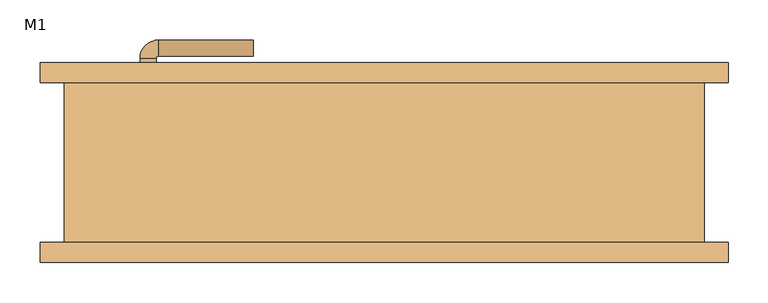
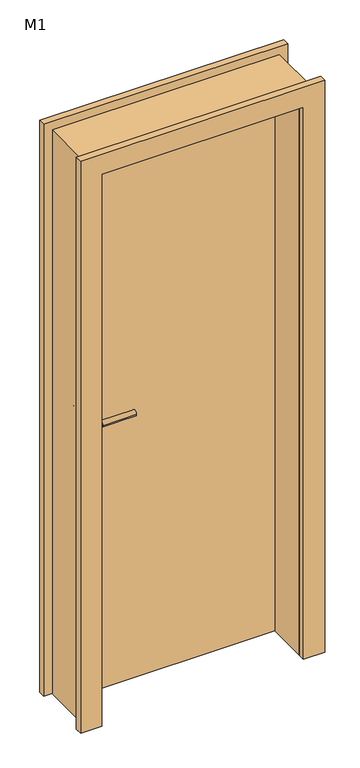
"""IFC4 building model written with IfcOpenShell, lengths in millimetres: door geometry, 单嵌板木门 1 : M1."""

from ifc_helpers import new_model, si_unit, point, frame, frame_2d, origin, origin_with_axes, place, context, project, spatial, polyline, circle_curve, ellipse_curve, trimmed, segment, composite_curve, outline, extrude, source, transform, mapped, element, save
from ifc_brep_helpers import plane_surface, cylinder_surface, revolved_surface, advanced_brep


def m1_2dcb8acc(model_context):
    return source(origin(), model_context, "Body", "SolidModel", [
        extrude(outline(composite_curve([segment(trimmed(circle_curve(frame_2d((900.0, -295.0)), 25.0), [point((900.0, -270.0))], [point((900.0, -320.0))], False, "CARTESIAN"), True, "CONTINUOUS"), segment(trimmed(circle_curve(frame_2d((900.0, -295.0)), 25.0), [point((900.0, -320.0))], [point((900.0, -270.0))], False, "CARTESIAN"), True, "CONTINUOUS")], self_intersect=False)), frame((0.0, 40.0, 0.0), z_axis=(0.0, 1.0, 0.0), x_axis=(0.0, 0.0, 1.0)), (0.0, 0.0, 1.0), 10.0),
        extrude(outline(composite_curve([segment(trimmed(circle_curve(frame_2d((900.0, -295.0)), 25.0), [point((900.0, -270.0))], [point((900.0, -320.0))], False, "CARTESIAN"), True, "CONTINUOUS"), segment(trimmed(circle_curve(frame_2d((900.0, -295.0)), 25.0), [point((900.0, -320.0))], [point((900.0, -270.0))], False, "CARTESIAN"), True, "CONTINUOUS")], self_intersect=False)), frame((0.0, 100.0, 0.0), z_axis=(0.0, 1.0, 0.0), x_axis=(0.0, 0.0, 1.0)), (0.0, 0.0, 1.0), 10.0),
        advanced_brep(
        [(-305.0, 40.0, 1020.0), (-285.0, 40.0, 1020.0), (-285.0, 19.386645, 1020.0), (-305.0, 19.386645, 1020.0), (-163.419036, -3.580964, 1020.0), (-163.419036, 16.419036, 1020.0), (-282.0323911, 16.419036, 1020.0), (-282.0323911, -3.580964, 1020.0)],
        [
            (0, 1, circle_curve(frame((-295.0, 40.0, 1020.0), z_axis=(0.0, 1.0, 0.0), x_axis=(1.0, 0.0, 0.0)), 10.0)),
            (1, 0, circle_curve(frame((-295.0, 40.0, 1020.0), z_axis=(0.0, 1.0, 0.0), x_axis=(1.0, 0.0, 0.0)), 10.0)),
            (1, 2),
            (2, 3, circle_curve(frame((-295.0, 19.386645, 1020.0), z_axis=(0.0, 1.0, 0.0), x_axis=(1.0, 0.0, 0.0)), 10.0)),
            (3, 0),
            (3, 2, circle_curve(frame((-295.0, 19.386645, 1020.0), z_axis=(0.0, 1.0, 0.0), x_axis=(1.0, 0.0, 0.0)), 10.0)),
            (4, 5, circle_curve(frame((-163.419036, 6.419036, 1020.0), z_axis=(1.0, 0.0, 0.0), x_axis=(0.0, 1.0, 0.0)), 10.0)),
            (5, 4, circle_curve(frame((-163.419036, 6.419036, 1020.0), z_axis=(1.0, 0.0, 0.0), x_axis=(0.0, 1.0, 0.0)), 10.0)),
            (6, 2, circle_curve(frame((-282.0323911, 19.386645, 1020.0), z_axis=(0.0, 0.0, -1.0), x_axis=(-1.0, 0.0, 0.0)), 2.9676089)),
            (3, 7, circle_curve(frame((-282.0323911, 19.386645, 1020.0), z_axis=(0.0, 0.0, 1.0), x_axis=(-1.0, 0.0, 0.0)), 22.9676089)),
            (7, 6, circle_curve(frame((-282.0323911, 6.419036, 1020.0), z_axis=(-1.0, 0.0, 0.0), x_axis=(0.0, 1.0, 0.0)), 10.0)),
            (6, 7, circle_curve(frame((-282.0323911, 6.419036, 1020.0), z_axis=(-1.0, 0.0, 0.0), x_axis=(0.0, 1.0, 0.0)), 10.0)),
            (7, 4),
            (5, 6),
        ],
        [
            plane_surface(frame((-295.0, 40.0, 900.0), z_axis=(0.0, 1.0, 0.0), x_axis=(0.0, 0.0, 1.0))),
            cylinder_surface(frame((-295.0, 40.0, 1020.0), z_axis=(0.0, 1.0, 0.0), x_axis=(1.0, 0.0, 0.0)), 10.0),
            plane_surface(frame((-163.419036, 6.419036, 900.0), z_axis=(1.0, 0.0, 0.0), x_axis=(0.0, 0.0, 1.0))),
            revolved_surface(trimmed(ellipse_curve(frame((-295.0, 19.386645, 1020.0), z_axis=(0.0, 1.0, 0.0), x_axis=(1.0, 0.0, 0.0)), 10.0, 10.0), [point((-305.0, 19.386645, 1020.0))], [point((-285.0, 19.386645, 1020.0))], True, "CARTESIAN"), (-282.0323911, 19.386645, 900.0), (0.0, 0.0, 1.0)),
            revolved_surface(trimmed(ellipse_curve(frame((-295.0, 19.386645, 1020.0), z_axis=(0.0, 1.0, 0.0), x_axis=(1.0, 0.0, 0.0)), 10.0, 10.0), [point((-285.0, 19.386645, 1020.0))], [point((-305.0, 19.386645, 1020.0))], True, "CARTESIAN"), (-282.0323911, 19.386645, 900.0), (0.0, 0.0, 1.0)),
            cylinder_surface(frame((-282.0323911, 6.419036, 1020.0), z_axis=(-1.0, 0.0, 0.0), x_axis=(0.0, 1.0, 0.0)), 10.0),
        ],
        [
            (0, [[1, 2]]),
            (1, [[-2, 3, 4, 5]]),
            (1, [[-1, -5, 6, -3]]),
            (2, [[7, 8]]),
            (3, [[9, -6, 10, 11]]),
            (4, [[-10, -4, -9, 12]]),
            (5, [[-11, 13, -8, 14]]),
            (5, [[-12, -14, -7, -13]]),
        ],
    ),
        extrude(outline(composite_curve([segment(trimmed(circle_curve(frame_2d((1020.0, -295.0)), 25.0), [point((1020.0, -270.0))], [point((1020.0, -320.0))], False, "CARTESIAN"), True, "CONTINUOUS"), segment(trimmed(circle_curve(frame_2d((1020.0, -295.0)), 25.0), [point((1020.0, -320.0))], [point((1020.0, -270.0))], False, "CARTESIAN"), True, "CONTINUOUS")], self_intersect=False)), frame((0.0, 40.0, 0.0), z_axis=(0.0, 1.0, 0.0), x_axis=(0.0, 0.0, 1.0)), (0.0, 0.0, 1.0), 10.0),
        advanced_brep(
        [(-285.0, 110.0, 1020.0), (-305.0, 110.0, 1020.0), (-285.0, 130.6133551, 1020.0), (-305.0, 130.6133551, 1020.0), (-163.419036, 133.580964, 1020.0), (-163.419036, 153.580964, 1020.0), (-282.0323911, 153.580964, 1020.0), (-282.0323911, 133.580964, 1020.0)],
        [
            (0, 1, circle_curve(frame((-295.0, 110.0, 1020.0), z_axis=(0.0, -1.0, 0.0), x_axis=(-1.0, 0.0, 0.0)), 10.0)),
            (1, 0, circle_curve(frame((-295.0, 110.0, 1020.0), z_axis=(0.0, -1.0, 0.0), x_axis=(-1.0, 0.0, 0.0)), 10.0)),
            (0, 2),
            (2, 3, circle_curve(frame((-295.0, 130.6133551, 1020.0), z_axis=(0.0, -1.0, 0.0), x_axis=(-1.0, 0.0, 0.0)), 10.0)),
            (3, 1),
            (3, 2, circle_curve(frame((-295.0, 130.6133551, 1020.0), z_axis=(0.0, -1.0, 0.0), x_axis=(-1.0, 0.0, 0.0)), 10.0)),
            (4, 5, circle_curve(frame((-163.419036, 143.580964, 1020.0), z_axis=(1.0, 0.0, 0.0), x_axis=(0.0, 1.0, 0.0)), 10.0)),
            (5, 4, circle_curve(frame((-163.419036, 143.580964, 1020.0), z_axis=(1.0, 0.0, 0.0), x_axis=(0.0, 1.0, 0.0)), 10.0)),
            (6, 3, circle_curve(frame((-282.0323911, 130.6133551, 1020.0), z_axis=(0.0, 0.0, 1.0), x_axis=(-1.0, 0.0, 0.0)), 22.9676089)),
            (2, 7, circle_curve(frame((-282.0323911, 130.6133551, 1020.0), z_axis=(0.0, 0.0, -1.0), x_axis=(-1.0, 0.0, 0.0)), 2.9676089)),
            (7, 6, circle_curve(frame((-282.0323911, 143.580964, 1020.0), z_axis=(-1.0, 0.0, 0.0), x_axis=(0.0, 1.0, 0.0)), 10.0)),
            (6, 7, circle_curve(frame((-282.0323911, 143.580964, 1020.0), z_axis=(-1.0, 0.0, 0.0), x_axis=(0.0, 1.0, 0.0)), 10.0)),
            (7, 4),
            (5, 6),
        ],
        [
            plane_surface(frame((-295.0, 110.0, 900.0), z_axis=(0.0, -1.0, 0.0), x_axis=(0.0, 0.0, 1.0))),
            cylinder_surface(frame((-295.0, 110.0, 1020.0), z_axis=(0.0, -1.0, 0.0), x_axis=(-1.0, 0.0, 0.0)), 10.0),
            plane_surface(frame((-163.419036, 143.580964, 900.0), z_axis=(1.0, 0.0, 0.0), x_axis=(0.0, 0.0, 1.0))),
            revolved_surface(trimmed(ellipse_curve(frame((-295.0, 130.6133551, 1020.0), z_axis=(0.0, -1.0, 0.0), x_axis=(-1.0, 0.0, 0.0)), 10.0, 10.0), [point((-285.0, 130.6133551, 1020.0))], [point((-305.0, 130.6133551, 1020.0))], True, "CARTESIAN"), (-282.0323911, 130.6133551, 900.0), (0.0, 0.0, -1.0)),
            revolved_surface(trimmed(ellipse_curve(frame((-295.0, 130.6133551, 1020.0), z_axis=(0.0, -1.0, 0.0), x_axis=(-1.0, 0.0, 0.0)), 10.0, 10.0), [point((-305.0, 130.6133551, 1020.0))], [point((-285.0, 130.6133551, 1020.0))], True, "CARTESIAN"), (-282.0323911, 130.6133551, 900.0), (0.0, 0.0, -1.0)),
            cylinder_surface(frame((-282.0323911, 143.580964, 1020.0), z_axis=(-1.0, 0.0, 0.0), x_axis=(0.0, 1.0, 0.0)), 10.0),
        ],
        [
            (0, [[1, 2]]),
            (1, [[-1, 3, 4, 5]]),
            (1, [[-2, -5, 6, -3]]),
            (2, [[7, 8]]),
            (3, [[9, -4, 10, 11]]),
            (4, [[-10, -6, -9, 12]]),
            (5, [[-11, 13, -8, 14]]),
            (5, [[-12, -14, -7, -13]]),
        ],
    ),
        extrude(outline(composite_curve([segment(trimmed(circle_curve(frame_2d((1020.0, -295.0)), 25.0), [point((1020.0, -270.0))], [point((1020.0, -320.0))], False, "CARTESIAN"), True, "CONTINUOUS"), segment(trimmed(circle_curve(frame_2d((1020.0, -295.0)), 25.0), [point((1020.0, -320.0))], [point((1020.0, -270.0))], False, "CARTESIAN"), True, "CONTINUOUS")], self_intersect=False)), frame((0.0, 100.0, 0.0), z_axis=(0.0, 1.0, 0.0), x_axis=(0.0, 0.0, 1.0)), (0.0, 0.0, 1.0), 10.0),
        extrude(outline(polyline([(0.0, 430.0), (2130.0, 430.0), (2130.0, -430.0), (0.0, -430.0), (0.0, -355.0), (2055.0, -355.0), (2055.0, 355.0), (0.0, 355.0), (0.0, 430.0)])), frame((0.0, 100.0, 0.0), z_axis=(0.0, 1.0, 0.0), x_axis=(0.0, 0.0, 1.0)), (0.0, 0.0, 1.0), 25.0),
        extrude(outline(polyline([(2130.0, 430.0), (2130.0, -430.0), (0.0, -430.0), (0.0, -355.0), (2055.0, -355.0), (2055.0, 355.0), (0.0, 355.0), (0.0, 430.0), (2130.0, 430.0)])), frame((0.0, -125.0, 0.0), z_axis=(0.0, 1.0, 0.0), x_axis=(0.0, 0.0, 1.0)), (0.0, 0.0, 1.0), 25.0),
        extrude(outline(polyline([(355.0, 50.0), (-355.0, 50.0), (-355.0, 100.0), (355.0, 100.0), (355.0, 50.0)])), origin_with_axes(), (0.0, 0.0, 1.0), 2055.0),
        extrude(outline(polyline([(2100.0, -400.0), (0.0, -400.0), (0.0, -355.0), (2055.0, -355.0), (2055.0, 355.0), (0.0, 355.0), (0.0, 400.0), (2100.0, 400.0), (2100.0, -400.0)])), frame((0.0, -100.0, 0.0), z_axis=(0.0, 1.0, 0.0), x_axis=(0.0, 0.0, 1.0)), (0.0, 0.0, 1.0), 200.0),
    ])


if __name__ == "__main__":
    model = new_model("IFC4")
    model_context = context("Model", 3, world=origin())
    ifc_project = project(units=[si_unit("LENGTHUNIT", "METRE", prefix="MILLI")], contexts=[model_context])
    site = spatial("IfcSite", under=ifc_project)
    building = spatial("IfcBuilding", under=site)
    placement = place(None, origin())
    m1_shape = m1_2dcb8acc(model_context)
    element("IfcDoor", 1, ObjectType="单嵌板木门 1 : M1", at=placement, inside=building, context=model_context, shape_type="MappedRepresentation", body=[
        mapped(m1_shape, transform((0.0, 0.0, 0.0), x_axis=(1.0, 0.0, 0.0), y_axis=(0.0, 1.0, 0.0), z_axis=(0.0, 0.0, 1.0))),
    ])
    save(model, "model.ifc")
